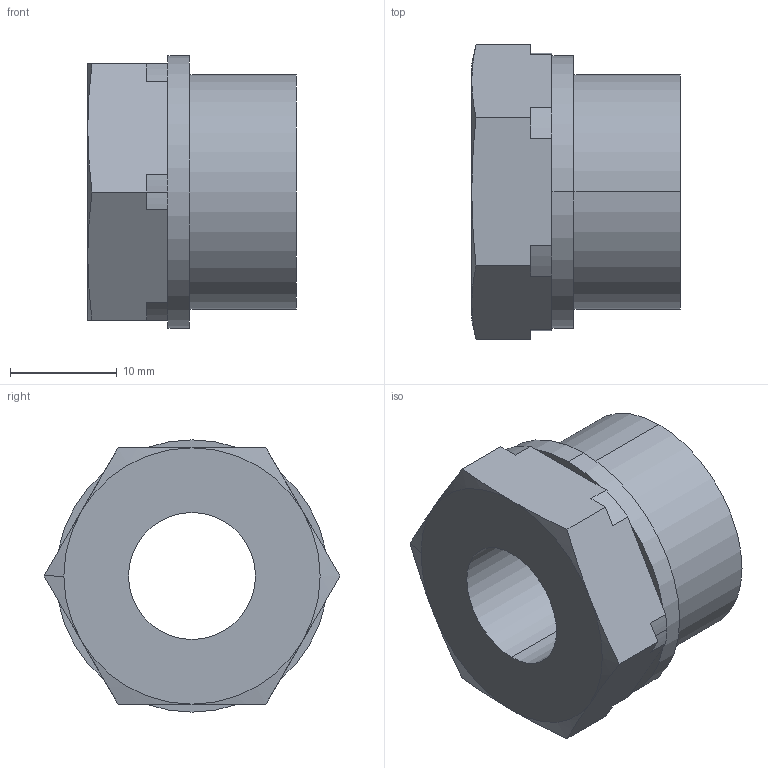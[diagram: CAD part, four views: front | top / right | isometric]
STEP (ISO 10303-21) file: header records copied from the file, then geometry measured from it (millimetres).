
FILE_DESCRIPTION (( 'STEP AP214' ), '1' );
FILE_NAME ('0000003172.STEP', '2015-11-23T10:56:50', ( 'HP' ), ( 'Hewlett-Packard Company' ), 'SwSTEP 2.0', 'SolidWorks 2014', '' );
FILE_SCHEMA (( 'AUTOMOTIVE_DESIGN' ));
Length unit declared in the file: millimetre
Products named in the file (1): 0000003172
Bounding box: 19.5 x 27.71 x 25.5 mm (x, y, z)
Volume: 6370.9 mm3; surface area: 3493.8 mm2
Topology: 2 solids, 2 shells, 39 faces, 95 edges, 61 vertices
Faces by surface type: plane 17, cylinder 15, cone 7
Entity records: 1347 total; most frequent: CARTESIAN_POINT 256, DIRECTION 200, ORIENTED_EDGE 190, EDGE_CURVE 95, AXIS2_PLACEMENT_3D 77, VERTEX_POINT 61, VECTOR 46, LINE 46
